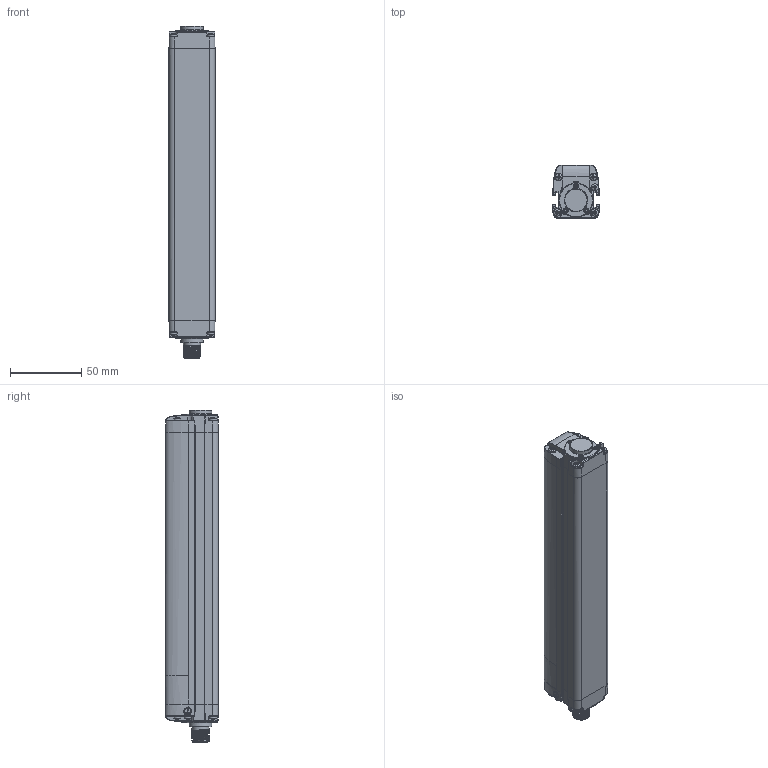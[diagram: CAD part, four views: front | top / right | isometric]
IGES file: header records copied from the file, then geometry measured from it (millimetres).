
Global section: file name: D:\Studi\DSD-0169.igs; preprocessor: I-DEAS 3D IGES Translator 11; date: 20080609.155438; units: millimetre
Bounding box: 32.3 x 36.9 x 232.94 mm (x, y, z)
Volume: 197698.2 mm3; surface area: 58753.2 mm2
Topology: 11 solids, 11 shells, 1649 faces, 6793 edges, 5556 vertices
Faces by surface type: bspline 1649
